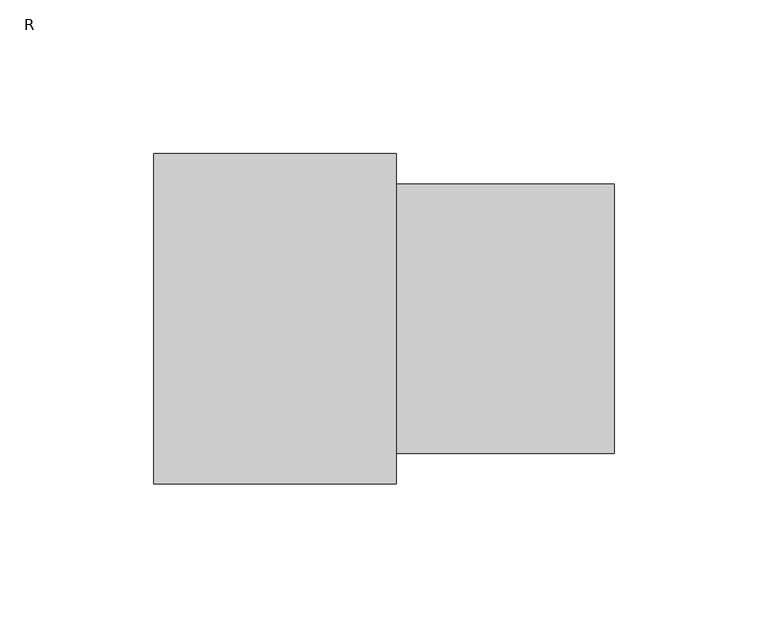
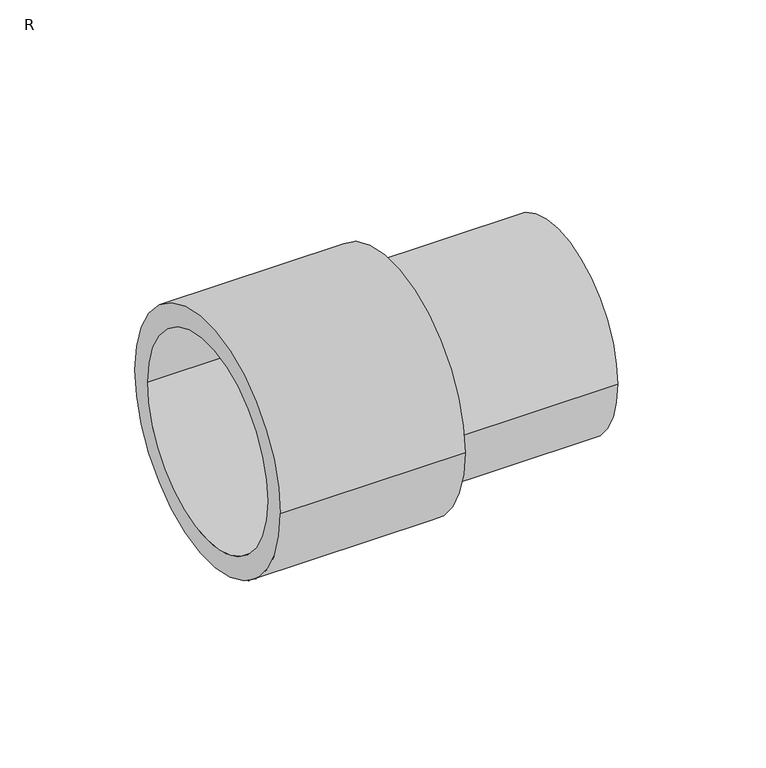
"""IFC4 building model written with IfcOpenShell, lengths in millimetres: pipe fitting geometry, FUSAPEX reducer : R."""

from ifc_helpers import new_model, si_unit, frame, origin, place, context, project, spatial, polyline, circle_curve, source, transform, mapped, element, save
from ifc_brep_helpers import plane_surface, cylinder_surface, revolved_surface, advanced_brep


def r_d1f8ca76(model_context):
    return source(origin(), model_context, "Body", "AdvancedBrep", [
        advanced_brep(
        [(-79.0, 44.4, 0.0), (-79.0, -44.4, 0.0), (-6.0, -44.4, 0.0), (-6.0, 44.4, 0.0), (0.0, 53.85, 0.0), (0.0, -53.85, 0.0), (-79.0, -53.85, 0.0), (-79.0, 53.85, 0.0), (71.0, 43.85, 0.0), (71.0, -43.85, 0.0), (0.0, -43.85, 0.0), (0.0, 43.85, 0.0), (-6.0, 36.25, 0.0), (-6.0, -36.25, 0.0), (71.0, -36.25, 0.0), (71.0, 36.25, 0.0)],
        [
            (0, 1, circle_curve(frame((-79.0, 0.0, 0.0), z_axis=(-1.0, 0.0, 0.0), x_axis=(0.0, -1.0, 0.0)), 44.4)),
            (1, 2),
            (2, 3, circle_curve(frame((-6.0, 0.0, 0.0), z_axis=(1.0, 0.0, 0.0), x_axis=(0.0, -1.0, 0.0)), 44.4)),
            (3, 0),
            (4, 5, circle_curve(frame((0.0, 0.0, 0.0), z_axis=(-1.0, 0.0, 0.0), x_axis=(0.0, -1.0, 0.0)), 53.85)),
            (5, 6),
            (6, 7, circle_curve(frame((-79.0, 0.0, 0.0), z_axis=(1.0, 0.0, 0.0), x_axis=(0.0, -1.0, 0.0)), 53.85)),
            (7, 4),
            (8, 9, circle_curve(frame((71.0, 0.0, 0.0), z_axis=(-1.0, 0.0, 0.0), x_axis=(0.0, -1.0, 0.0)), 43.85)),
            (9, 10),
            (10, 11, circle_curve(frame((0.0, 0.0, 0.0), z_axis=(1.0, 0.0, 0.0), x_axis=(0.0, -1.0, 0.0)), 43.85)),
            (11, 8),
            (12, 13, circle_curve(frame((-6.0, 0.0, 0.0), z_axis=(-1.0, 0.0, 0.0), x_axis=(0.0, -1.0, 0.0)), 36.25)),
            (13, 14),
            (14, 15, circle_curve(frame((71.0, 0.0, 0.0), z_axis=(1.0, 0.0, 0.0), x_axis=(0.0, -1.0, 0.0)), 36.25)),
            (15, 12),
            (1, 0, circle_curve(frame((-79.0, 0.0, 0.0), z_axis=(-1.0, 0.0, 0.0), x_axis=(0.0, 1.0, 0.0)), 44.4)),
            (3, 2, circle_curve(frame((-6.0, 0.0, 0.0), z_axis=(1.0, 0.0, 0.0), x_axis=(0.0, 1.0, 0.0)), 44.4)),
            (6, 7, circle_curve(frame((-79.0, 0.0, 0.0), z_axis=(-1.0, 0.0, 0.0), x_axis=(0.0, 1.0, 0.0)), 53.85)),
            (5, 4, circle_curve(frame((0.0, 0.0, 0.0), z_axis=(-1.0, 0.0, 0.0), x_axis=(0.0, 1.0, 0.0)), 53.85)),
            (10, 11, circle_curve(frame((0.0, 0.0, 0.0), z_axis=(-1.0, 0.0, 0.0), x_axis=(0.0, 1.0, 0.0)), 43.85)),
            (9, 8, circle_curve(frame((71.0, 0.0, 0.0), z_axis=(-1.0, 0.0, 0.0), x_axis=(0.0, 1.0, 0.0)), 43.85)),
            (14, 15, circle_curve(frame((71.0, 0.0, 0.0), z_axis=(-1.0, 0.0, 0.0), x_axis=(0.0, 1.0, 0.0)), 36.25)),
            (13, 12, circle_curve(frame((-6.0, 0.0, 0.0), z_axis=(-1.0, 0.0, 0.0), x_axis=(0.0, 1.0, 0.0)), 36.25)),
        ],
        [
            revolved_surface(polyline([(-6.0, -44.4, 0.0), (-79.0, -44.4, 0.0)]), (0.0, 0.0, 0.0), (1.0, 0.0, 0.0)),
            cylinder_surface(frame((0.0, 0.0, 0.0), z_axis=(1.0, 0.0, 0.0), x_axis=(0.0, -1.0, 0.0)), 53.85),
            cylinder_surface(frame((0.0, 0.0, 0.0), z_axis=(1.0, 0.0, 0.0), x_axis=(0.0, -1.0, 0.0)), 43.85),
            revolved_surface(polyline([(71.0, -36.25, 0.0), (-6.0, -36.25, 0.0)]), (0.0, 0.0, 0.0), (1.0, 0.0, 0.0)),
            revolved_surface(polyline([(-6.0, 44.4, 0.0), (-79.0, 44.4, 0.0)]), (0.0, 0.0, 0.0), (1.0, 0.0, 0.0)),
            plane_surface(frame((-79.0, 0.0, 0.0), z_axis=(-1.0, 0.0, 0.0), x_axis=(0.0, 1.0, 0.0))),
            cylinder_surface(frame((0.0, 0.0, 0.0), z_axis=(1.0, 0.0, 0.0), x_axis=(0.0, 1.0, 0.0)), 53.85),
            plane_surface(frame((0.0, 0.0, 0.0), z_axis=(1.0, 0.0, 0.0), x_axis=(0.0, 1.0, 0.0))),
            cylinder_surface(frame((0.0, 0.0, 0.0), z_axis=(1.0, 0.0, 0.0), x_axis=(0.0, 1.0, 0.0)), 43.85),
            plane_surface(frame((71.0, 0.0, 0.0), z_axis=(1.0, 0.0, 0.0), x_axis=(0.0, 1.0, 0.0))),
            revolved_surface(polyline([(71.0, 36.25, 0.0), (-6.0, 36.25, 0.0)]), (0.0, 0.0, 0.0), (1.0, 0.0, 0.0)),
            plane_surface(frame((-6.0, 0.0, 0.0), z_axis=(-1.0, 0.0, 0.0), x_axis=(0.0, 1.0, 0.0))),
        ],
        [
            (0, [[1, 2, 3, 4]]),
            (1, [[5, 6, 7, 8]]),
            (2, [[9, 10, 11, 12]]),
            (3, [[13, 14, 15, 16]]),
            (4, [[17, -4, 18, -2]]),
            (5, [[19, -7], [-17, -1]]),
            (6, [[20, -8, -19, -6]]),
            (7, [[-20, -5], [21, -11]]),
            (8, [[22, -12, -21, -10]]),
            (9, [[-22, -9], [23, -15]]),
            (10, [[24, -16, -23, -14]]),
            (11, [[-18, -3], [-24, -13]]),
        ],
    ),
    ])


if __name__ == "__main__":
    model = new_model("IFC4")
    model_context = context("Model", 3, world=origin())
    ifc_project = project(units=[si_unit("LENGTHUNIT", "METRE", prefix="MILLI")], contexts=[model_context])
    site = spatial("IfcSite", under=ifc_project)
    building = spatial("IfcBuilding", under=site)
    placement = place(None, origin())
    r_shape = r_d1f8ca76(model_context)
    element("IfcPipeFitting", 1, ObjectType="FUSAPEX reducer : R", at=placement, inside=building, context=model_context, shape_type="MappedRepresentation", body=[
        mapped(r_shape, transform((0.0, 0.0, 0.0), x_axis=(1.0, 0.0, 0.0), y_axis=(0.0, 1.0, 0.0), z_axis=(0.0, 0.0, 1.0))),
    ])
    save(model, "model.ifc")
